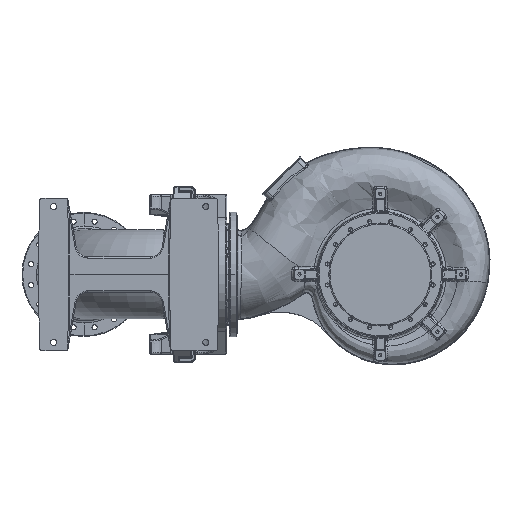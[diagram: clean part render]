
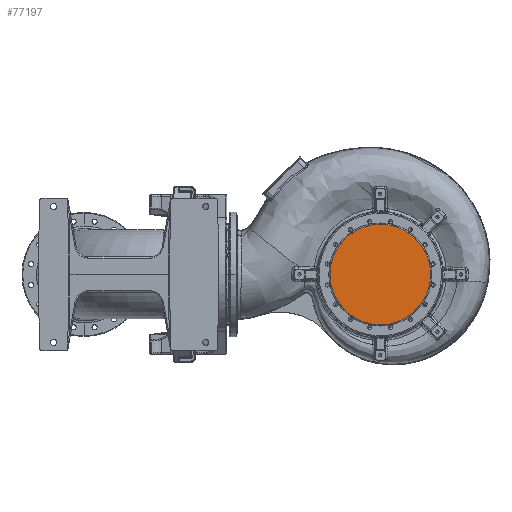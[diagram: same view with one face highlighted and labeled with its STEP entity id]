
A CAD part, front view. The second image highlights one B-rep face of the part: STEP entity #77197.
In plain terms, the highlighted planar face has unit normal (0, -1, 0).
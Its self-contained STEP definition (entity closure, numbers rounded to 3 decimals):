
#3986 = CARTESIAN_POINT ( 'NONE',  ( 0., -578., 0. ) ) ;
#11280 = DIRECTION ( 'NONE',  ( 0., 0., 1. ) ) ;
#23984 = DIRECTION ( 'NONE',  ( 0., 0., 1. ) ) ;
#29370 = DIRECTION ( 'NONE',  ( 0., -1., 0. ) ) ;
#69037 = VERTEX_POINT ( 'NONE', #104747 ) ;
#77197 = ADVANCED_FACE ( 'NONE', ( #89521 ), #169455, .T. ) ;
#89521 = FACE_OUTER_BOUND ( 'NONE', #142691, .T. ) ;
#100904 = ORIENTED_EDGE ( 'NONE', *, *, #137781, .T. ) ;
#104747 = CARTESIAN_POINT ( 'NONE',  ( 0., -578., -215. ) ) ;
#130152 = DIRECTION ( 'NONE',  ( 0., -1., 0. ) ) ;
#134257 = CARTESIAN_POINT ( 'NONE',  ( 0., -578., 215. ) ) ;
#137781 = EDGE_CURVE ( 'NONE', #191295, #69037, #200254, .T. ) ;
#138817 = AXIS2_PLACEMENT_3D ( 'NONE', #148388, #29370, #168443 ) ;
#142691 = EDGE_LOOP ( 'NONE', ( #231492, #100904 ) ) ;
#142982 = DIRECTION ( 'NONE',  ( 0., -1., 0. ) ) ;
#147432 = AXIS2_PLACEMENT_3D ( 'NONE', #3986, #142982, #23984 ) ;
#148388 = CARTESIAN_POINT ( 'NONE',  ( 0., -578., 0. ) ) ;
#168443 = DIRECTION ( 'NONE',  ( 0., 0., 1. ) ) ;
#169455 = PLANE ( 'NONE',  #237978 ) ;
#188960 = EDGE_CURVE ( 'NONE', #69037, #191295, #224685, .T. ) ;
#191295 = VERTEX_POINT ( 'NONE', #134257 ) ;
#200254 = CIRCLE ( 'NONE', #147432, 215. ) ;
#224685 = CIRCLE ( 'NONE', #138817, 215. ) ;
#231492 = ORIENTED_EDGE ( 'NONE', *, *, #188960, .T. ) ;
#237978 = AXIS2_PLACEMENT_3D ( 'NONE', #249417, #130152, #11280 ) ;
#249417 = CARTESIAN_POINT ( 'NONE',  ( -215., -578., 0. ) ) ;
